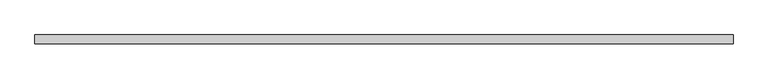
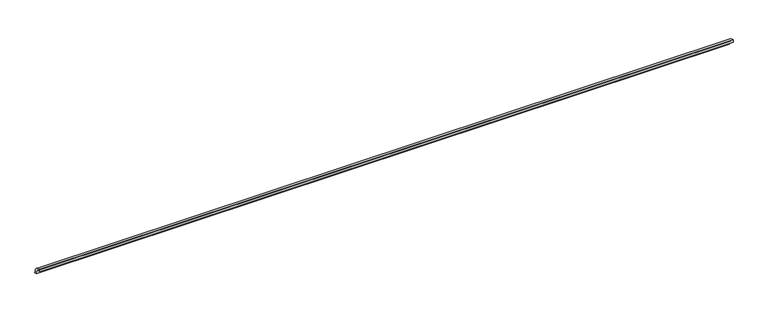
"""IFC4 building model written with IfcOpenShell, lengths in millimetres: proxy geometry, Muestra 3.16m 183 : Muestra 3.16m 183."""

from ifc_helpers import new_model, si_unit, point, frame, frame_2d, origin, place, context, project, spatial, polyline, circle_curve, trimmed, segment, composite_curve, outline, extrude, source, transform, mapped, element, save


def generic_models_60fd4de7(model_context):
    return source(origin(), model_context, "Body", "SweptSolid", [
        extrude(outline(composite_curve([segment(polyline([(-13156.9987133, 30.0265886), (-13156.9987133, 40.0)]), True, "CONTINUOUS"), segment(trimmed(circle_curve(frame_2d((-13156.9987133, 0.0)), 40.0), [point((-13156.9987133, 40.0))], [point((-13116.9987133, 0.0))], False, "CARTESIAN"), True, "CONTINUOUS"), segment(polyline([(-13116.9987133, 0.0), (-13126.9721248, 0.0)]), True, "CONTINUOUS"), segment(trimmed(circle_curve(frame_2d((-13156.994268, 0.0044453)), 30.0221435), [point((-13126.9721248, 0.0))], [point((-13156.9987133, 30.0265886))], True, "CARTESIAN"), True, "CONTINUOUS")], self_intersect=False)), frame((142828.5928404, 0.0, 0.0), z_axis=(1.0, 0.0, 0.0), x_axis=(0.0, 1.0, 0.0)), (0.0, 0.0, 1.0), 3160.0),
    ])


if __name__ == "__main__":
    model = new_model("IFC4")
    model_context = context("Model", 3, world=origin())
    ifc_project = project(units=[si_unit("LENGTHUNIT", "METRE", prefix="MILLI")], contexts=[model_context])
    site = spatial("IfcSite", under=ifc_project)
    building = spatial("IfcBuilding", under=site)
    placement = place(None, origin())
    generic_models_shape = generic_models_60fd4de7(model_context)
    element("IfcBuildingElementProxy", 1, Name="Muestra 3.16m 183 : Muestra 3.16m 183", ObjectType="Muestra 3.16m 183 : Muestra 3.16m 183", at=placement, inside=building, context=model_context, shape_type="MappedRepresentation", body=[
        mapped(generic_models_shape, transform((0.0, 0.0, 0.0), x_axis=(1.0, 0.0, 0.0), y_axis=(0.0, 1.0, 0.0), z_axis=(0.0, 0.0, 1.0))),
    ])
    save(model, "model.ifc")
